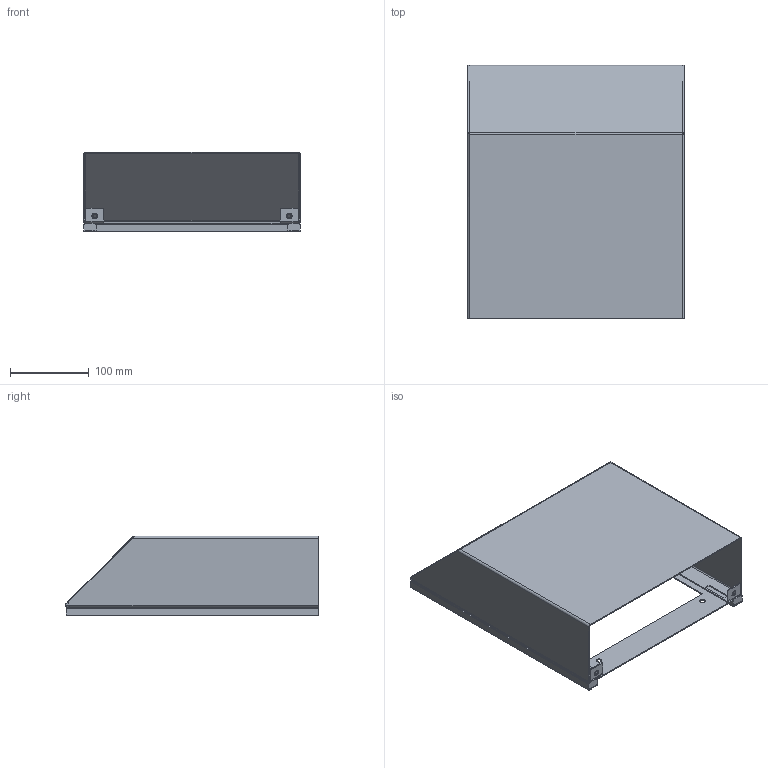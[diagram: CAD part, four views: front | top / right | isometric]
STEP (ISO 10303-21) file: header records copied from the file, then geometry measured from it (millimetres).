
FILE_DESCRIPTION (( 'STEP AP214' ), '1' );
FILE_NAME ('RH 30000_Step.STEP', '2017-06-28T12:25:33', ( '' ), ( '' ), 'SwSTEP 2.0', 'SolidWorks 2015', '' );
FILE_SCHEMA (( 'AUTOMOTIVE_DESIGN' ));
Length unit declared in the file: millimetre
Products named in the file (5): Step File Plate_30000; 815073190; 80064-014_304 Stainless Steel; Pem Nut (part of cover); RH 30000_Step
Assembly tree (5 placements, depth 2):
  RH 30000_Step
    Pem Nut (part of cover)  x2
    80064-014_304 Stainless Steel
    815073190
    Step File Plate_30000
Bounding box: 276 x 322.42 x 101.53 mm (x, y, z)
Volume: 290060.1 mm3; surface area: 460675.5 mm2
Topology: 4 solids, 7 shells, 398 faces, 1058 edges, 670 vertices
Faces by surface type: plane 283, cylinder 85, cone 12, bspline 12, torus 6
Entity records: 10653 total; most frequent: CARTESIAN_POINT 2249, ORIENTED_EDGE 1504, DIRECTION 1414, EDGE_CURVE 784, VECTOR 600, LINE 600, VERTEX_POINT 492, AXIS2_PLACEMENT_3D 407
